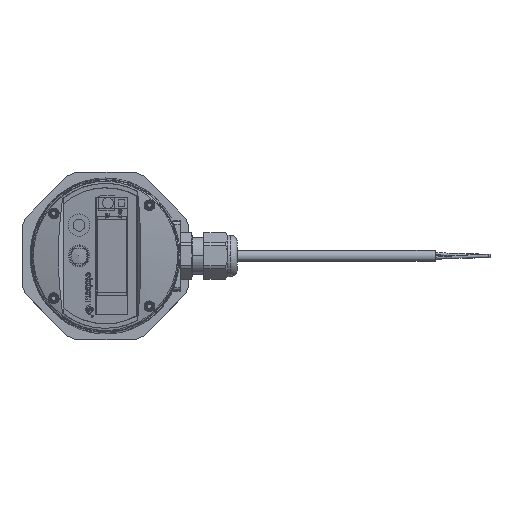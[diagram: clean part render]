
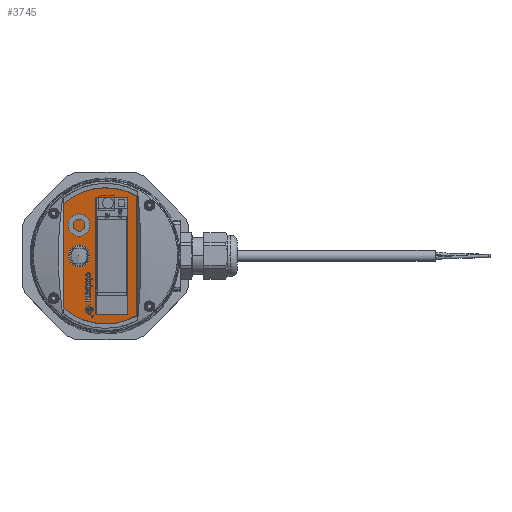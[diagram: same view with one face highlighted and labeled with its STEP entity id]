
A CAD part, top view. The second image highlights one B-rep face of the part: STEP entity #3745.
In plain terms, the highlighted planar face has unit normal (-0.259, 0, 0.966).
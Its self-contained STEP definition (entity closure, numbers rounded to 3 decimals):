
#1091=CIRCLE('',#23384,5.);
#1092=CIRCLE('',#23385,30.95);
#1093=CIRCLE('',#23386,30.95);
#3745=ADVANCED_FACE('',(#5055,#5056,#5057),#4642,.F.);
#4642=PLANE('',#23387);
#5055=FACE_BOUND('',#6126,.T.);
#5056=FACE_BOUND('',#6127,.T.);
#5057=FACE_BOUND('',#6128,.T.);
#6126=EDGE_LOOP('',(#14212));
#6127=EDGE_LOOP('',(#14213,#14214,#14215,#14216));
#6128=EDGE_LOOP('',(#14217,#14218,#14219,#14220));
#7412=LINE('',#58989,#8562);
#7413=LINE('',#58994,#8563);
#7414=LINE('',#58997,#8564);
#7415=LINE('',#59000,#8565);
#7416=LINE('',#59002,#8566);
#7417=LINE('',#59004,#8567);
#8562=VECTOR('',#27198,1.);
#8563=VECTOR('',#27201,1.);
#8564=VECTOR('',#27204,1.);
#8565=VECTOR('',#27205,1.);
#8566=VECTOR('',#27206,1.);
#8567=VECTOR('',#27207,1.);
#14212=ORIENTED_EDGE('',*,*,#20827,.T.);
#14213=ORIENTED_EDGE('',*,*,#20828,.T.);
#14214=ORIENTED_EDGE('',*,*,#20829,.T.);
#14215=ORIENTED_EDGE('',*,*,#20830,.T.);
#14216=ORIENTED_EDGE('',*,*,#20831,.T.);
#14217=ORIENTED_EDGE('',*,*,#20832,.T.);
#14218=ORIENTED_EDGE('',*,*,#20833,.T.);
#14219=ORIENTED_EDGE('',*,*,#20834,.T.);
#14220=ORIENTED_EDGE('',*,*,#20835,.T.);
#18032=VERTEX_POINT('',#58988);
#18033=VERTEX_POINT('',#58990);
#18034=VERTEX_POINT('',#58991);
#18035=VERTEX_POINT('',#58993);
#18036=VERTEX_POINT('',#58995);
#18037=VERTEX_POINT('',#58998);
#18038=VERTEX_POINT('',#58999);
#18039=VERTEX_POINT('',#59001);
#18040=VERTEX_POINT('',#59003);
#20827=EDGE_CURVE('',#18032,#18032,#1091,.T.);
#20828=EDGE_CURVE('',#18033,#18034,#7412,.T.);
#20829=EDGE_CURVE('',#18034,#18035,#1092,.T.);
#20830=EDGE_CURVE('',#18035,#18036,#7413,.T.);
#20831=EDGE_CURVE('',#18036,#18033,#1093,.T.);
#20832=EDGE_CURVE('',#18037,#18038,#7414,.T.);
#20833=EDGE_CURVE('',#18038,#18039,#7415,.T.);
#20834=EDGE_CURVE('',#18039,#18040,#7416,.T.);
#20835=EDGE_CURVE('',#18040,#18037,#7417,.T.);
#23384=AXIS2_PLACEMENT_3D('',#58987,#27196,#27197);
#23385=AXIS2_PLACEMENT_3D('',#58992,#27199,#27200);
#23386=AXIS2_PLACEMENT_3D('',#58996,#27202,#27203);
#23387=AXIS2_PLACEMENT_3D('',#59005,#27208,#27209);
#27196=DIRECTION('',(0.259,0.,-0.966));
#27197=DIRECTION('',(0.966,0.,0.259));
#27198=DIRECTION('',(0.,1.,0.));
#27199=DIRECTION('',(-0.259,0.,0.966));
#27200=DIRECTION('',(0.,-1.,0.));
#27201=DIRECTION('',(0.,-1.,0.));
#27202=DIRECTION('',(-0.259,0.,0.966));
#27203=DIRECTION('',(0.,-1.,0.));
#27204=DIRECTION('',(0.,1.,0.));
#27205=DIRECTION('',(0.966,0.,0.259));
#27206=DIRECTION('',(0.,-1.,0.));
#27207=DIRECTION('',(-0.966,0.,-0.259));
#27208=DIRECTION('',(0.259,0.,-0.966));
#27209=DIRECTION('',(0.966,0.,0.259));
#58987=CARTESIAN_POINT('',(-12.048,0.,38.868));
#58988=CARTESIAN_POINT('',(-7.219,0.,40.162));
#58989=CARTESIAN_POINT('',(14.322,27.182,45.934));
#58990=CARTESIAN_POINT('',(14.322,-27.182,45.934));
#58991=CARTESIAN_POINT('',(14.322,27.182,45.934));
#58992=CARTESIAN_POINT('',(0.026,0.,42.103));
#58993=CARTESIAN_POINT('',(-19.196,23.704,36.953));
#58994=CARTESIAN_POINT('',(-19.196,-23.704,36.953));
#58995=CARTESIAN_POINT('',(-19.196,-23.704,36.953));
#58996=CARTESIAN_POINT('',(0.026,0.,42.103));
#58997=CARTESIAN_POINT('',(-4.321,0.,40.939));
#58998=CARTESIAN_POINT('',(-4.321,-26.5,40.939));
#58999=CARTESIAN_POINT('',(-4.321,26.5,40.939));
#59000=CARTESIAN_POINT('',(0.026,26.5,42.103));
#59001=CARTESIAN_POINT('',(10.168,26.5,44.821));
#59002=CARTESIAN_POINT('',(10.168,0.,44.821));
#59003=CARTESIAN_POINT('',(10.168,-26.5,44.821));
#59004=CARTESIAN_POINT('',(0.026,-26.5,42.103));
#59005=CARTESIAN_POINT('',(0.026,0.,42.103));
